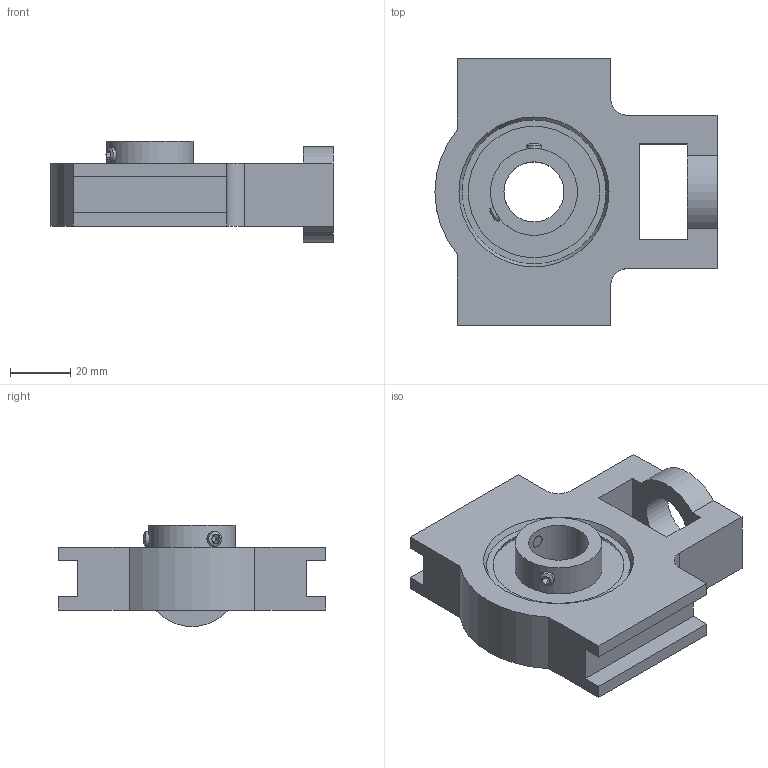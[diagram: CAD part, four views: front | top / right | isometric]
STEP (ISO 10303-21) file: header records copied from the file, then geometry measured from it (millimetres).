
FILE_DESCRIPTION((''),'2;1');
FILE_NAME('\\Ts-tgl068\j-cad-d-base\00.3DCADデータ作成フォルダ\03.テークアップ形\BT200\BT204.stp','2014-06-27T08:08:40',('btec_1106_2'),(''),'Autodesk Inventor 2012','Autodesk Inventor 2012','');
FILE_SCHEMA(('AUTOMOTIVE_DESIGN { 1 0 10303 214 1 1 1 1 }'));
Length unit declared in the file: millimetre
Products named in the file (3): BT200; T200G00 [番手=204 ul]; シリーズB [番手=4 ul]
Assembly tree (2 placements, depth 2):
  BT200
    T200G00 [番手=204 ul]
    シリーズB [番手=4 ul]
Bounding box: 94 x 89 x 33.7 mm (x, y, z)
Volume: 105627.1 mm3; surface area: 30054.6 mm2
Topology: 2 solids, 2 shells, 66 faces, 168 edges, 111 vertices
Faces by surface type: plane 46, cylinder 14, cone 4, sphere 2
Full cylindrical faces by diameter (mm): 5 x2, 19 x1, 20 x1, 29 x1
Entity records: 2088 total; most frequent: CARTESIAN_POINT 463, DIRECTION 316, ORIENTED_EDGE 300, EDGE_CURVE 150, VECTOR 110, LINE 110, VERTEX_POINT 106, AXIS2_PLACEMENT_3D 103
